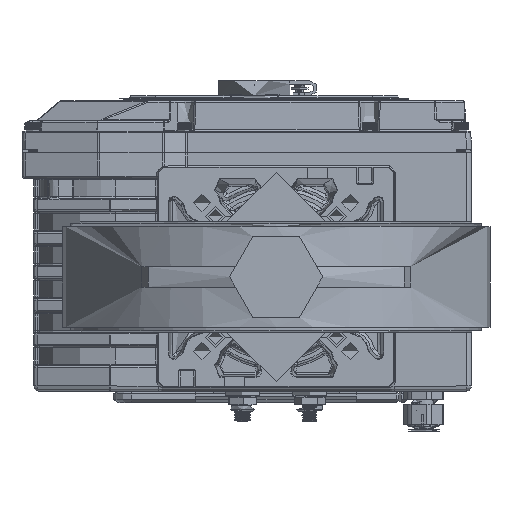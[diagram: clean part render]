
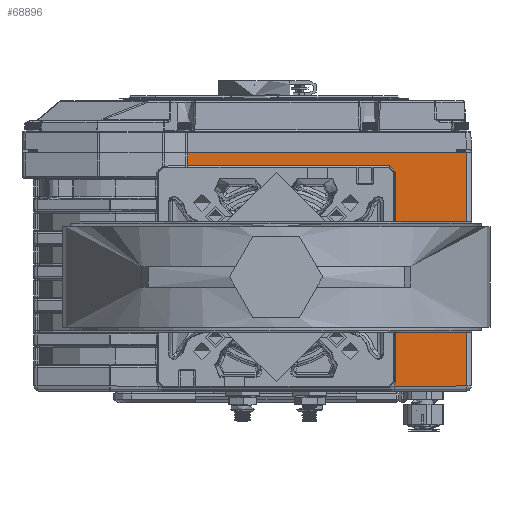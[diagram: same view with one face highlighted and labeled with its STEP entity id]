
A CAD part, front view. The second image highlights one B-rep face of the part: STEP entity #68896.
In plain terms, the highlighted planar face has unit normal (0, -1, 0).
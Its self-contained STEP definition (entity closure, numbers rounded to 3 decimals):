
#68896=ADVANCED_FACE('',(#151720),#151722,.T.);
#151720=FACE_BOUND('',#151721,.T.);
#151721=EDGE_LOOP('',(#210254,#210255,#210256,#210257,#210258,#210259,#210260,#210261));
#151722=PLANE('',#151723);
#151723=AXIS2_PLACEMENT_3D('',#151724,#151725,#151726);
#151724=CARTESIAN_POINT('',(594.228,1254.927,973.472));
#151725=DIRECTION('',(0.,-1.,0.));
#151726=DIRECTION('',(1.,0.,0.));
#210254=ORIENTED_EDGE('',*,*,#240168,.T.);
#210255=ORIENTED_EDGE('',*,*,#240169,.T.);
#210256=ORIENTED_EDGE('',*,*,#240170,.T.);
#210257=ORIENTED_EDGE('',*,*,#240171,.F.);
#210258=ORIENTED_EDGE('',*,*,#240172,.T.);
#210259=ORIENTED_EDGE('',*,*,#240173,.T.);
#210260=ORIENTED_EDGE('',*,*,#240174,.T.);
#210261=ORIENTED_EDGE('',*,*,#240175,.T.);
#240168=EDGE_CURVE('',#278880,#278881,#278882,.T.);
#240169=EDGE_CURVE('',#278881,#278883,#278884,.T.);
#240170=EDGE_CURVE('',#278883,#278885,#278886,.T.);
#240171=EDGE_CURVE('',#278887,#278885,#278888,.T.);
#240172=EDGE_CURVE('',#278887,#278889,#278890,.T.);
#240173=EDGE_CURVE('',#278889,#278891,#278892,.T.);
#240174=EDGE_CURVE('',#278891,#278893,#278894,.T.);
#240175=EDGE_CURVE('',#278893,#278880,#278895,.T.);
#278880=VERTEX_POINT('',#520350);
#278881=VERTEX_POINT('',#520351);
#278882=B_SPLINE_CURVE_WITH_KNOTS('',3,
(#520352,#520353,#520354,#520355,#520356,#520357,#520358,#520359,#520360,#520361,
#520362,#520363,#520364,#520365),
.UNSPECIFIED.,.F.,.F.,
(4,2,2,2,2,2,4),
(0.,0.175,0.356,0.538,0.705,0.869,
1.),
.UNSPECIFIED.);
#278883=VERTEX_POINT('',#520366);
#278884=LINE('',#520367,#520368);
#278885=VERTEX_POINT('',#520370);
#278886=LINE('',#520371,#520372);
#278887=VERTEX_POINT('',#520374);
#278888=LINE('',#520375,#520376);
#278889=VERTEX_POINT('',#520378);
#278890=LINE('',#520379,#520380);
#278891=VERTEX_POINT('',#520382);
#278892=LINE('',#520383,#520384);
#278893=VERTEX_POINT('',#520386);
#278894=B_SPLINE_CURVE_WITH_KNOTS('',3,
(#520387,#520388,#520389,#520390,#520391,#520392,#520393,#520394,#520395,#520396,
#520397,#520398,#520399,#520400,#520401,#520402,#520403,#520404,#520405,#520406,
#520407,#520408,#520409,#520410,#520411,#520412,#520413,#520414),
.UNSPECIFIED.,.F.,.F.,
(4,2,2,2,2,2,2,2,2,2,2,2,2,4),
(0.,0.082,0.164,0.247,0.326,0.405,
0.488,0.567,0.637,0.72,0.799,
0.879,0.962,1.),
.UNSPECIFIED.);
#278895=LINE('',#520415,#520416);
#520350=CARTESIAN_POINT('',(718.996,1254.927,978.973));
#520351=CARTESIAN_POINT('',(718.056,1254.927,976.472));
#520352=CARTESIAN_POINT('',(718.996,1254.927,978.973));
#520353=CARTESIAN_POINT('',(718.991,1254.927,978.816));
#520354=CARTESIAN_POINT('',(718.986,1254.927,978.66));
#520355=CARTESIAN_POINT('',(718.945,1254.927,978.34));
#520356=CARTESIAN_POINT('',(718.914,1254.927,978.175));
#520357=CARTESIAN_POINT('',(718.83,1254.927,977.854));
#520358=CARTESIAN_POINT('',(718.778,1254.927,977.694));
#520359=CARTESIAN_POINT('',(718.658,1254.927,977.399));
#520360=CARTESIAN_POINT('',(718.59,1254.927,977.259));
#520361=CARTESIAN_POINT('',(718.443,1254.927,976.995));
#520362=CARTESIAN_POINT('',(718.362,1254.927,976.868));
#520363=CARTESIAN_POINT('',(718.206,1254.927,976.652));
#520364=CARTESIAN_POINT('',(718.131,1254.927,976.562));
#520365=CARTESIAN_POINT('',(718.056,1254.927,976.472));
#520366=CARTESIAN_POINT('',(761.199,1254.927,976.472));
#520367=CARTESIAN_POINT('',(718.056,1254.927,976.472));
#520368=VECTOR('',#520369,1.);
#520369=DIRECTION('',(1.,0.,0.));
#520370=CARTESIAN_POINT('',(761.199,1254.927,1115.472));
#520371=CARTESIAN_POINT('',(761.199,1254.927,976.472));
#520372=VECTOR('',#520373,1.);
#520373=DIRECTION('',(0.,0.,1.));
#520374=CARTESIAN_POINT('',(594.757,1254.927,1115.472));
#520375=CARTESIAN_POINT('',(594.757,1254.927,1115.472));
#520376=VECTOR('',#520377,1.);
#520377=DIRECTION('',(1.,0.,0.));
#520378=CARTESIAN_POINT('',(594.757,1254.927,1107.768));
#520379=CARTESIAN_POINT('',(594.757,1254.927,1115.472));
#520380=VECTOR('',#520381,1.);
#520381=DIRECTION('',(0.,0.,-1.));
#520382=CARTESIAN_POINT('',(715.198,1254.927,1107.768));
#520383=CARTESIAN_POINT('',(594.757,1254.927,1107.768));
#520384=VECTOR('',#520385,1.);
#520385=DIRECTION('',(1.,0.,0.));
#520386=CARTESIAN_POINT('',(718.996,1254.927,1103.971));
#520387=CARTESIAN_POINT('',(715.198,1254.927,1107.768));
#520388=CARTESIAN_POINT('',(715.36,1254.927,1107.763));
#520389=CARTESIAN_POINT('',(715.523,1254.927,1107.758));
#520390=CARTESIAN_POINT('',(715.846,1254.927,1107.716));
#520391=CARTESIAN_POINT('',(716.009,1254.927,1107.684));
#520392=CARTESIAN_POINT('',(716.327,1254.927,1107.6));
#520393=CARTESIAN_POINT('',(716.485,1254.927,1107.548));
#520394=CARTESIAN_POINT('',(716.782,1254.927,1107.426));
#520395=CARTESIAN_POINT('',(716.924,1254.927,1107.357));
#520396=CARTESIAN_POINT('',(717.197,1254.927,1107.204));
#520397=CARTESIAN_POINT('',(717.33,1254.927,1107.118));
#520398=CARTESIAN_POINT('',(717.588,1254.927,1106.927));
#520399=CARTESIAN_POINT('',(717.715,1254.927,1106.82));
#520400=CARTESIAN_POINT('',(717.946,1254.927,1106.597));
#520401=CARTESIAN_POINT('',(718.053,1254.927,1106.481));
#520402=CARTESIAN_POINT('',(718.238,1254.927,1106.251));
#520403=CARTESIAN_POINT('',(718.32,1254.927,1106.138));
#520404=CARTESIAN_POINT('',(718.483,1254.927,1105.883));
#520405=CARTESIAN_POINT('',(718.564,1254.927,1105.738));
#520406=CARTESIAN_POINT('',(718.701,1254.927,1105.447));
#520407=CARTESIAN_POINT('',(718.759,1254.927,1105.299));
#520408=CARTESIAN_POINT('',(718.857,1254.927,1105.));
#520409=CARTESIAN_POINT('',(718.897,1254.927,1104.845));
#520410=CARTESIAN_POINT('',(718.958,1254.927,1104.528));
#520411=CARTESIAN_POINT('',(718.979,1254.927,1104.364));
#520412=CARTESIAN_POINT('',(718.993,1254.927,1104.123));
#520413=CARTESIAN_POINT('',(718.994,1254.927,1104.047));
#520414=CARTESIAN_POINT('',(718.996,1254.927,1103.971));
#520415=CARTESIAN_POINT('',(718.996,1254.927,1103.971));
#520416=VECTOR('',#520417,1.);
#520417=DIRECTION('',(0.,0.,-1.));
